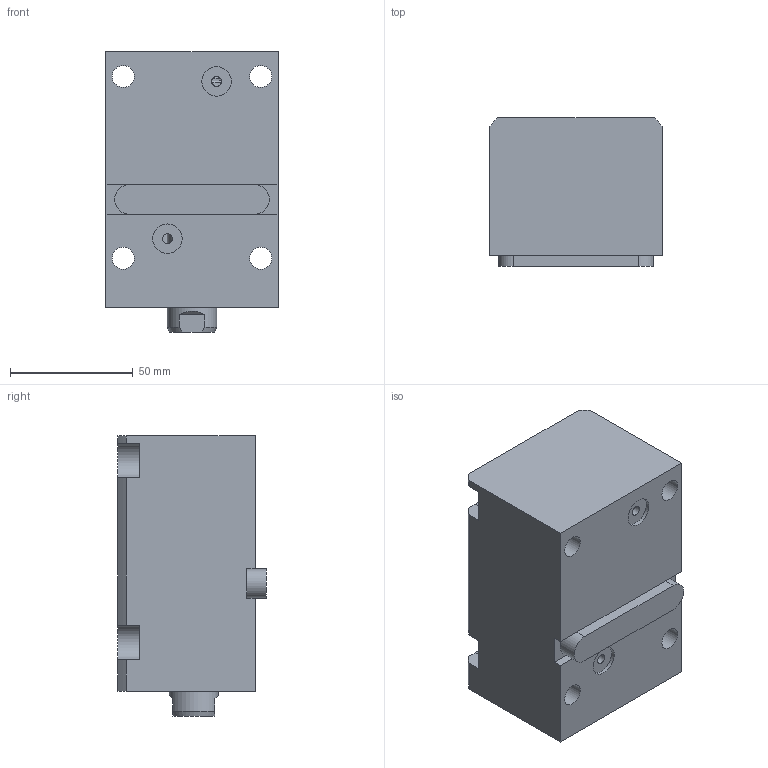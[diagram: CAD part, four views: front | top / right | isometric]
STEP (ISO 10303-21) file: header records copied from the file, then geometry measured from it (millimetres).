
FILE_DESCRIPTION(/* description */ (''),/* implementation_level */ '2;1');
FILE_NAME(/* name */ 'CHTB-LAM32-50N.stp',/* time_stamp */ '2022-04-29T16:10:19+08:00',/* author */ (''),/* organization */ (''),/* preprocessor_version */ 'ST-DEVELOPER v16.7',/* originating_system */ 'SIEMENS PLM Software NX 12.0',/* authorisation */ '');
FILE_SCHEMA (('AUTOMOTIVE_DESIGN { 1 0 10303 214 3 1 1 1 }'));
Length unit declared in the file: millimetre
Products named in the file (1): CHTB-LAM32-50N
Bounding box: 70 x 60.5 x 114 mm (x, y, z)
Volume: 364621.4 mm3; surface area: 69113.1 mm2
Topology: 3 solids, 3 shells, 455 faces, 1276 edges, 862 vertices
Faces by surface type: plane 302, extrusion 84, cylinder 39, torus 12, bspline 10, cone 8
Full cylindrical faces by diameter (mm): 3 x2, 4 x2, 9 x4, 10.5 x1, 12 x2, 20 x2, 24 x1, 24.5 x1, 26 x1, 32 x4, 40 x1
Entity records: 22045 total; most frequent: CARTESIAN_POINT 8553, ORIENTED_EDGE 2454, DIRECTION 1860, EDGE_CURVE 1227, VECTOR 956, LINE 872, VERTEX_POINT 854, EDGE_LOOP 542
